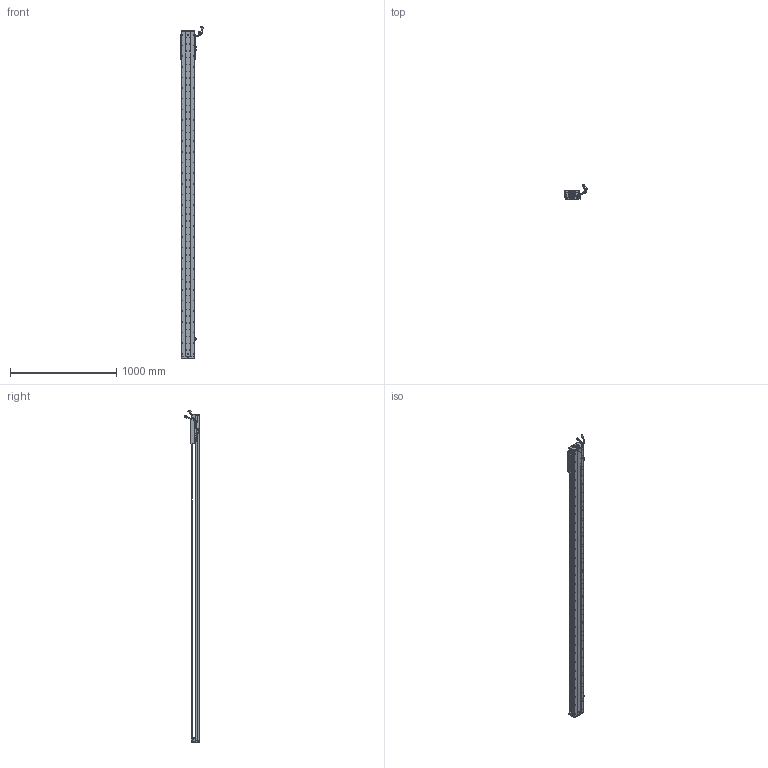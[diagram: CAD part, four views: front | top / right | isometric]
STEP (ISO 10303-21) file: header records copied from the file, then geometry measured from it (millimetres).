
FILE_DESCRIPTION (( 'STEP AP203' ), '1' );
FILE_NAME ('Z3-RY120D-1-L500-B-K.SLDASM_2750.step', '2021-05-17T05:51:17', ( '盈信电脑' ), ( '东莞市道滘镇水果街19号' ), 'SwSTEP 2.0', 'SolidWorks 2016', '' );
FILE_SCHEMA (( 'CONFIG_CONTROL_DESIGN' ));
Length unit declared in the file: millimetre
Products named in the file (37): SCREW-M1.7-1; 覜茼ん672; SEAL; Z-RY120D詩湍奻揤裔; HARNESS-Part-2; SHIELDPLATE; SCREW-M1.6; COVER; 672嫖萇羲壽假蚾釱; SCREW-M1.6-3; HARNESS; 080黍杅芛假蚾釱21遴; Z3-RY120-L500詩湍100mm遵_2750; PSLH080_PSLF2; PBU_SHEET; 榋妏寠巭燃_暯_M2_2; SCREW-M1.7; 140蚥薯蝶輸; Z-RY120D詩湍狟揤裔; SCALE; SCALE-Part-1; SCALE-Part-2; SCREW-M1.6-1; 140雄赽晤鎢ん堤盄; Z3-RY120铝滑块（21款）; Z-120詩湍傷裔啣; Z3-RY120-500-倰第菁釱_2750; SCREW-M1.6-2; LABEL-Part-1; RY100FB-遵嫖萇覜茼え; COVER-Part-1; SEAL-Part-1; Z3-RY120D-1-L500-B-K.SLDASM_2750; 120-Z-臏賑輸盄裔(21遴); HOLDER0; HARNESS-Part-1; LABEL
Assembly tree (43 placements, depth 4):
  Z3-RY120D-1-L500-B-K.SLDASM_2750
    Z3-RY120-500-倰第菁釱_2750
    覜茼ん672  x3
    672嫖萇羲壽假蚾釱  x2
    Z3-RY120铝滑块（21款）
    PSLH080_PSLF2
      SCALE
        SCALE-Part-1
        SCALE-Part-2
      HARNESS
        HARNESS-Part-1
        HARNESS-Part-2
      LABEL
        LABEL-Part-1
      COVER
        COVER-Part-1
      SEAL
        SEAL-Part-1
      榋妏寠巭燃_暯_M2_2
      SHIELDPLATE
      SCREW-M1.7
      SCREW-M1.7-1
      PBU_SHEET
      SCREW-M1.6
      SCREW-M1.6-1
      SCREW-M1.6-2
      SCREW-M1.6-3
      HOLDER0
    080黍杅芛假蚾釱21遴
    120-Z-臏賑輸盄裔(21遴)
    140雄赽晤鎢ん堤盄
    140蚥薯蝶輸  x2
    RY100FB-遵嫖萇覜茼え
    Z-120詩湍傷裔啣  x2
    Z-RY120D詩湍奻揤裔  x2
    Z-RY120D詩湍狟揤裔  x2
    Z3-RY120-L500詩湍100mm遵_2750
Bounding box: 222.83 x 140.94 x 3123.99 mm (x, y, z)
Volume: 7190395.6 mm3; surface area: 2526525.6 mm2
Topology: 38 solids, 38 shells, 3957 faces, 11391 edges, 7186 vertices
Faces by surface type: cylinder 2133, plane 1288, cone 414, torus 69, bspline 53
Entity records: 135782 total; most frequent: CARTESIAN_POINT 42595, ORIENTED_EDGE 19478, DIRECTION 17607, EDGE_CURVE 9739, AXIS2_PLACEMENT_3D 6524, VERTEX_POINT 6306, LINE 4559, VECTOR 4559
